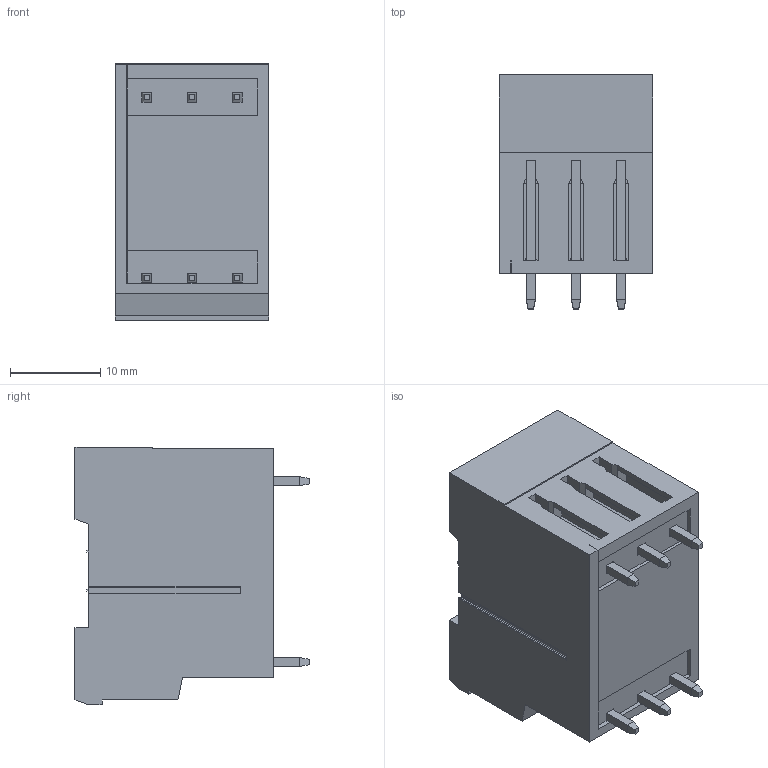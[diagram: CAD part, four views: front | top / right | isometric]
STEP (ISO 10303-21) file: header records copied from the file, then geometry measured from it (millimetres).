
FILE_DESCRIPTION((''),'2;1');
FILE_NAME('VL06','2022-06-15T',('renkang.li'),(''),'CREO PARAMETRIC BY PTC INC, 2016260','CREO PARAMETRIC BY PTC INC, 2016260','');
FILE_SCHEMA(('CONFIG_CONTROL_DESIGN'));
Length unit declared in the file: millimetre
Products named in the file (1): VL06
Bounding box: 17 x 25.9 x 28.52 mm (x, y, z)
Volume: 3816.1 mm3; surface area: 7238.6 mm2
Topology: 1 solids, 5 shells, 659 faces, 1755 edges, 1117 vertices
Faces by surface type: plane 495, cylinder 108, torus 22, cone 18, bspline 16
Entity records: 20628 total; most frequent: CARTESIAN_POINT 4012, ORIENTED_EDGE 3510, DIRECTION 3353, EDGE_CURVE 1755, VECTOR 1419, LINE 1419, VERTEX_POINT 1117, AXIS2_PLACEMENT_3D 967
